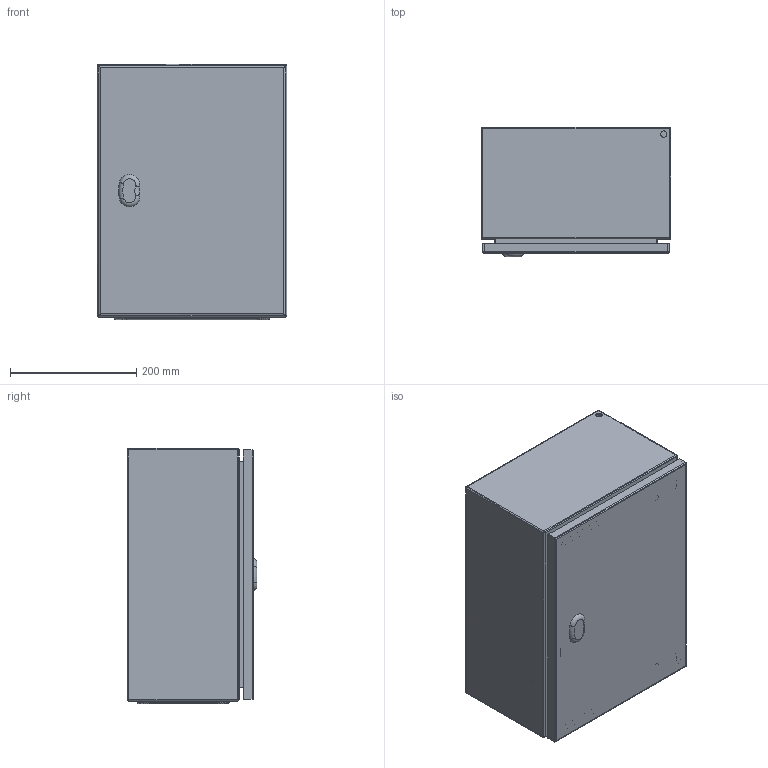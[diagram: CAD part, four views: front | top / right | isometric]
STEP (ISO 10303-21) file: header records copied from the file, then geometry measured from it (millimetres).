
FILE_DESCRIPTION(/* description */ ('STEP AP214'),/* implementation_level */ '2;1');
FILE_NAME(/* name */ 'EC030420-LOD400',/* time_stamp */ '2025-07-31T10:42:15+02:00',/* author */ ('License CC BY-ND 4.0'),/* organization */ ('CADENAS'),/* preprocessor_version */ 'ST-DEVELOPER v19.3',/* originating_system */ 'PARTsolutions',/* authorisation */ ' ');
FILE_SCHEMA (('AUTOMOTIVE_DESIGN {1 0 10303 214 3 1 1}'));
Length unit declared in the file: millimetre
Products named in the file (5): EC030420-LOD400; EC030420-LOD400_cabinet; EC030420-LOD400_door; EC030420-LOD400_bottom_plate; EC030420-LOD400_inner_plate
Assembly tree (4 placements, depth 2):
  EC030420-LOD400
    EC030420-LOD400_cabinet
    EC030420-LOD400_door
    EC030420-LOD400_bottom_plate
    EC030420-LOD400_inner_plate
Bounding box: 300 x 205 x 404 mm (x, y, z)
Volume: 1096852.7 mm3; surface area: 1361632.5 mm2
Topology: 4 solids, 4 shells, 450 faces, 1082 edges, 696 vertices
Faces by surface type: cylinder 182, plane 178, cone 46, torus 44
Full cylindrical faces by diameter (mm): 1 x32, 4.5 x32, 5 x4, 5.5 x4, 6 x4, 7 x4, 8 x12, 10 x10, 14 x4
Entity records: 12403 total; most frequent: DIRECTION 2278, CARTESIAN_POINT 1993, ORIENTED_EDGE 1768, AXIS2_PLACEMENT_3D 939, EDGE_CURVE 884, EDGE_LOOP 788, FACE_BOUND 788, VERTEX_POINT 654
